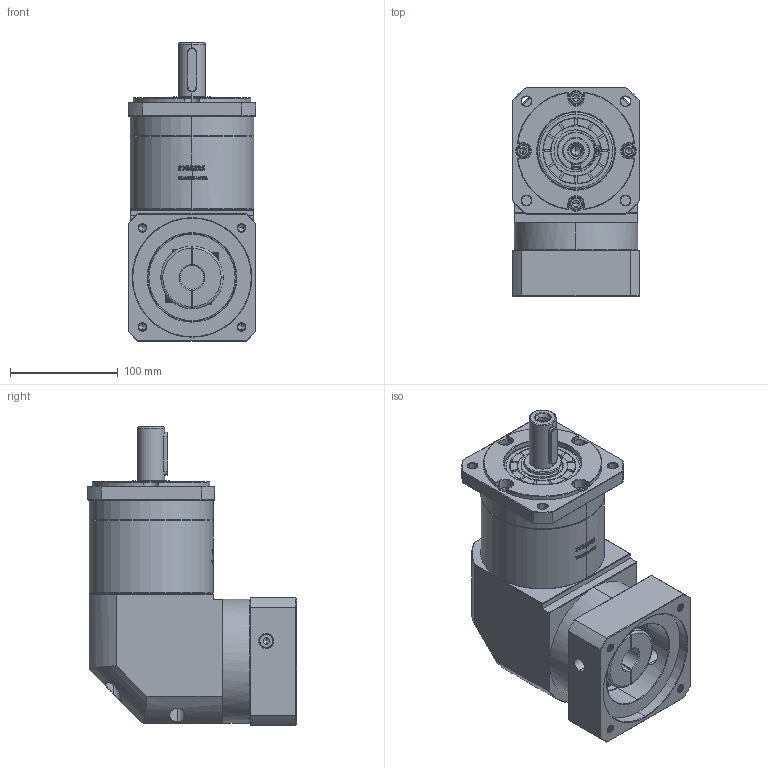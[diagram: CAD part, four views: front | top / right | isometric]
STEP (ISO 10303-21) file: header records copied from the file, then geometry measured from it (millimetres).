
FILE_DESCRIPTION (( 'STEP AP214' ), '1' );
FILE_NAME ('ZFR120A-D25-L2-22-110-130-M8.step', '2023-03-08T08:20:13', ( '' ), ( '' ), 'SwSTEP 2.0', 'SolidWorks 2016', '' );
FILE_SCHEMA (( 'AUTOMOTIVE_DESIGN' ));
Length unit declared in the file: millimetre
Products named in the file (1): ZFR120A-D25-L2-22-110-130-M8
Bounding box: 118 x 193.9 x 276.5 mm (x, y, z)
Volume: 3167447.1 mm3; surface area: 254601.3 mm2
Topology: 6 solids, 6 shells, 2871 faces, 7662 edges, 4936 vertices
Faces by surface type: plane 1484, bspline 607, cylinder 434, cone 338, torus 8
Entity records: 157758 total; most frequent: CARTESIAN_POINT 60477, ORIENTED_EDGE 15264, DIRECTION 11095, EDGE_CURVE 7632, VERTEX_POINT 4936, VECTOR 4749, LINE 4749, AXIS2_PLACEMENT_3D 3173
